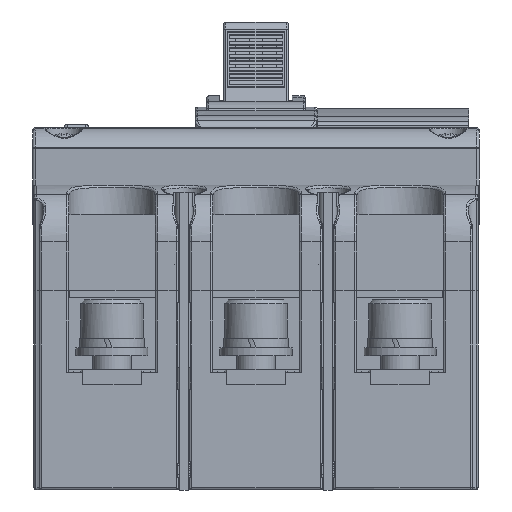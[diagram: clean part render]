
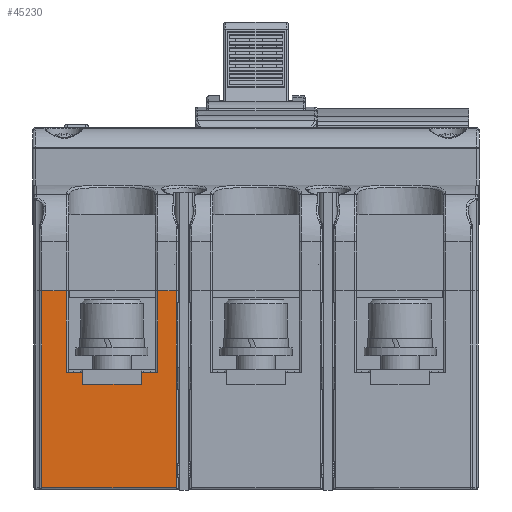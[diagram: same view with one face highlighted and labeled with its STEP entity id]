
A CAD part, front view. The second image highlights one B-rep face of the part: STEP entity #45230.
In plain terms, the highlighted planar face has unit normal (0, -1, 0) as drawn and (0, 0, 1) by its records, which use the part's own axes.
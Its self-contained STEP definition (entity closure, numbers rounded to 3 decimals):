
#1017 = ORIENTED_EDGE ( 'NONE', *, *, #89557, .T. ) ;
#2030 = FACE_OUTER_BOUND ( 'NONE', #81019, .T. ) ;
#2773 = VERTEX_POINT ( 'NONE', #98653 ) ;
#2893 = VECTOR ( 'NONE', #9577, 1000. ) ;
#3134 = DIRECTION ( 'NONE',  ( 0., 1., 0. ) ) ;
#3726 = CARTESIAN_POINT ( 'NONE',  ( -39.5, -3., 74.45 ) ) ;
#5528 = CARTESIAN_POINT ( 'NONE',  ( -20.5, 14., 74.45 ) ) ;
#7691 = VERTEX_POINT ( 'NONE', #76154 ) ;
#9313 = VERTEX_POINT ( 'NONE', #66725 ) ;
#9577 = DIRECTION ( 'NONE',  ( 1., 0., 0. ) ) ;
#9792 = EDGE_CURVE ( 'NONE', #68487, #114077, #53324, .T. ) ;
#10587 = VERTEX_POINT ( 'NONE', #37122 ) ;
#13862 = ORIENTED_EDGE ( 'NONE', *, *, #70522, .F. ) ;
#14669 = DIRECTION ( 'NONE',  ( -1., 0., 0. ) ) ;
#15821 = VECTOR ( 'NONE', #118424, 1000. ) ;
#16783 = DIRECTION ( 'NONE',  ( 0., 1., 0. ) ) ;
#18258 = VERTEX_POINT ( 'NONE', #80929 ) ;
#22398 = ORIENTED_EDGE ( 'NONE', *, *, #99279, .T. ) ;
#23839 = VECTOR ( 'NONE', #43191, 1000. ) ;
#23851 = DIRECTION ( 'NONE',  ( -1., 0., 0. ) ) ;
#24071 = DIRECTION ( 'NONE',  ( 0., -1., 0. ) ) ;
#24197 = DIRECTION ( 'NONE',  ( 1., 0., 0. ) ) ;
#29107 = CARTESIAN_POINT ( 'NONE',  ( -36.1, -3., 74.45 ) ) ;
#31336 = EDGE_CURVE ( 'NONE', #99593, #2773, #69033, .T. ) ;
#31654 = ORIENTED_EDGE ( 'NONE', *, *, #31336, .T. ) ;
#31905 = ORIENTED_EDGE ( 'NONE', *, *, #60744, .T. ) ;
#32624 = ORIENTED_EDGE ( 'NONE', *, *, #53810, .F. ) ;
#35012 = VERTEX_POINT ( 'NONE', #106854 ) ;
#35330 = CARTESIAN_POINT ( 'NONE',  ( -23.9, -5.5, 74.45 ) ) ;
#35477 = EDGE_CURVE ( 'NONE', #114149, #18258, #88737, .T. ) ;
#36704 = CARTESIAN_POINT ( 'NONE',  ( -44.65, -27., 74.45 ) ) ;
#37122 = CARTESIAN_POINT ( 'NONE',  ( -20.5, -3., 74.45 ) ) ;
#38086 = LINE ( 'NONE', #112960, #111441 ) ;
#38539 = DIRECTION ( 'NONE',  ( 1., 0., 0. ) ) ;
#38631 = EDGE_CURVE ( 'NONE', #9313, #10587, #60610, .T. ) ;
#43191 = DIRECTION ( 'NONE',  ( 1., 0., 0. ) ) ;
#43218 = ORIENTED_EDGE ( 'NONE', *, *, #107530, .T. ) ;
#45230 = ADVANCED_FACE ( 'NONE', ( #2030 ), #63734, .T. ) ;
#46443 = VECTOR ( 'NONE', #105573, 1000. ) ;
#50053 = DIRECTION ( 'NONE',  ( 0., -1., 0. ) ) ;
#51606 = CARTESIAN_POINT ( 'NONE',  ( -44.65, 14., 74.45 ) ) ;
#52919 = VECTOR ( 'NONE', #14669, 1000. ) ;
#53324 = LINE ( 'NONE', #35330, #59603 ) ;
#53810 = EDGE_CURVE ( 'NONE', #9313, #2773, #108641, .T. ) ;
#53897 = CARTESIAN_POINT ( 'NONE',  ( -44.65, 14., 74.45 ) ) ;
#54402 = ORIENTED_EDGE ( 'NONE', *, *, #81558, .F. ) ;
#55859 = LINE ( 'NONE', #3726, #91696 ) ;
#57704 = ORIENTED_EDGE ( 'NONE', *, *, #38631, .T. ) ;
#58194 = LINE ( 'NONE', #94755, #111136 ) ;
#59009 = CARTESIAN_POINT ( 'NONE',  ( -16.6, -27., 74.45 ) ) ;
#59603 = VECTOR ( 'NONE', #16783, 1000. ) ;
#60610 = LINE ( 'NONE', #5528, #80072 ) ;
#60744 = EDGE_CURVE ( 'NONE', #7691, #94475, #100428, .T. ) ;
#62082 = AXIS2_PLACEMENT_3D ( 'NONE', #93084, #93671, #38539 ) ;
#63734 = PLANE ( 'NONE',  #62082 ) ;
#66725 = CARTESIAN_POINT ( 'NONE',  ( -20.5, 14., 74.45 ) ) ;
#67654 = CARTESIAN_POINT ( 'NONE',  ( -16.6, -27., 74.45 ) ) ;
#68487 = VERTEX_POINT ( 'NONE', #98303 ) ;
#69033 = LINE ( 'NONE', #106159, #46443 ) ;
#69192 = LINE ( 'NONE', #59009, #52919 ) ;
#70522 = EDGE_CURVE ( 'NONE', #35012, #68487, #80290, .T. ) ;
#70874 = EDGE_CURVE ( 'NONE', #10587, #114077, #81331, .T. ) ;
#73896 = ORIENTED_EDGE ( 'NONE', *, *, #9792, .F. ) ;
#74192 = ORIENTED_EDGE ( 'NONE', *, *, #35477, .F. ) ;
#76154 = CARTESIAN_POINT ( 'NONE',  ( -36.1, -3., 74.45 ) ) ;
#76682 = CARTESIAN_POINT ( 'NONE',  ( -39.5, -3., 74.45 ) ) ;
#77626 = VECTOR ( 'NONE', #23851, 1000. ) ;
#80072 = VECTOR ( 'NONE', #24071, 1000. ) ;
#80290 = LINE ( 'NONE', #116846, #2893 ) ;
#80929 = CARTESIAN_POINT ( 'NONE',  ( -39.5, 14., 74.45 ) ) ;
#81019 = EDGE_LOOP ( 'NONE', ( #54402, #31654, #32624, #57704, #88031, #73896, #13862, #1017, #31905, #22398, #74192, #43218 ) ) ;
#81331 = LINE ( 'NONE', #117294, #77626 ) ;
#81558 = EDGE_CURVE ( 'NONE', #99593, #91020, #69192, .T. ) ;
#85716 = VECTOR ( 'NONE', #24197, 1000. ) ;
#88031 = ORIENTED_EDGE ( 'NONE', *, *, #70874, .T. ) ;
#88737 = LINE ( 'NONE', #51606, #23839 ) ;
#88894 = CARTESIAN_POINT ( 'NONE',  ( -20.5, 14., 74.45 ) ) ;
#89557 = EDGE_CURVE ( 'NONE', #35012, #7691, #58194, .T. ) ;
#91020 = VERTEX_POINT ( 'NONE', #36704 ) ;
#91696 = VECTOR ( 'NONE', #3134, 1000. ) ;
#93084 = CARTESIAN_POINT ( 'NONE',  ( -46.25, 14., 74.45 ) ) ;
#93671 = DIRECTION ( 'NONE',  ( 0., 0., 1. ) ) ;
#94475 = VERTEX_POINT ( 'NONE', #76682 ) ;
#94755 = CARTESIAN_POINT ( 'NONE',  ( -36.1, -5.5, 74.45 ) ) ;
#97649 = CARTESIAN_POINT ( 'NONE',  ( -23.9, -3., 74.45 ) ) ;
#98303 = CARTESIAN_POINT ( 'NONE',  ( -23.9, -5.5, 74.45 ) ) ;
#98653 = CARTESIAN_POINT ( 'NONE',  ( -16.6, 14., 74.45 ) ) ;
#99279 = EDGE_CURVE ( 'NONE', #94475, #18258, #55859, .T. ) ;
#99593 = VERTEX_POINT ( 'NONE', #67654 ) ;
#100428 = LINE ( 'NONE', #29107, #15821 ) ;
#105573 = DIRECTION ( 'NONE',  ( 0., 1., 0. ) ) ;
#106159 = CARTESIAN_POINT ( 'NONE',  ( -16.6, -27., 74.45 ) ) ;
#106854 = CARTESIAN_POINT ( 'NONE',  ( -36.1, -5.5, 74.45 ) ) ;
#107530 = EDGE_CURVE ( 'NONE', #114149, #91020, #38086, .T. ) ;
#108641 = LINE ( 'NONE', #88894, #85716 ) ;
#111136 = VECTOR ( 'NONE', #113895, 1000. ) ;
#111441 = VECTOR ( 'NONE', #50053, 1000. ) ;
#112960 = CARTESIAN_POINT ( 'NONE',  ( -44.65, 14., 74.45 ) ) ;
#113895 = DIRECTION ( 'NONE',  ( 0., 1., 0. ) ) ;
#114077 = VERTEX_POINT ( 'NONE', #97649 ) ;
#114149 = VERTEX_POINT ( 'NONE', #53897 ) ;
#116846 = CARTESIAN_POINT ( 'NONE',  ( -36.1, -5.5, 74.45 ) ) ;
#117294 = CARTESIAN_POINT ( 'NONE',  ( -20.5, -3., 74.45 ) ) ;
#118424 = DIRECTION ( 'NONE',  ( -1., 0., 0. ) ) ;
